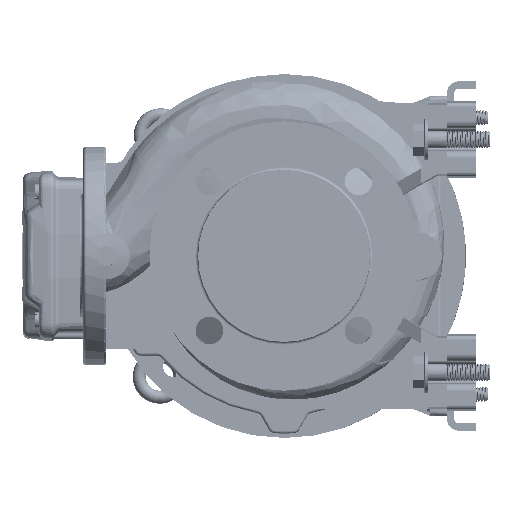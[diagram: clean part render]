
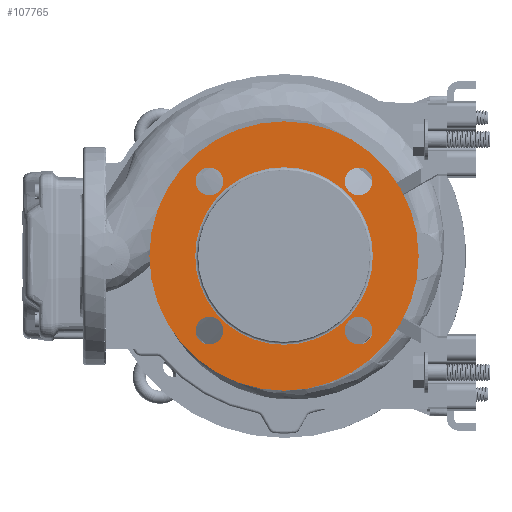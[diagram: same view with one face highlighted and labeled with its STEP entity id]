
A CAD part, left-side view. The second image highlights one B-rep face of the part: STEP entity #107765.
In plain terms, the highlighted planar face has unit normal (-1, 0, 0).
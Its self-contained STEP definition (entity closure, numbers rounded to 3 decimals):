
#3305 = DIRECTION ( 'NONE',  ( 0., 0., 1. ) ) ;
#6729 = AXIS2_PLACEMENT_3D ( 'NONE', #164980, #150472, #8525 ) ;
#6839 = ORIENTED_EDGE ( 'NONE', *, *, #36641, .F. ) ;
#8525 = DIRECTION ( 'NONE',  ( 0., -1., 0. ) ) ;
#11519 = FACE_BOUND ( 'NONE', #97416, .T. ) ;
#11932 = VERTEX_POINT ( 'NONE', #180497 ) ;
#12402 = AXIS2_PLACEMENT_3D ( 'NONE', #70905, #134114, #162102 ) ;
#14561 = FACE_BOUND ( 'NONE', #40629, .T. ) ;
#17313 = DIRECTION ( 'NONE',  ( 0., 0., -1. ) ) ;
#17777 = DIRECTION ( 'NONE',  ( 0., -1., 0. ) ) ;
#19034 = CIRCLE ( 'NONE', #12402, 9.5 ) ;
#20364 = DIRECTION ( 'NONE',  ( 0., -1., 0. ) ) ;
#21291 = EDGE_CURVE ( 'NONE', #92169, #11932, #23038, .T. ) ;
#21408 = AXIS2_PLACEMENT_3D ( 'NONE', #47360, #31867, #17313 ) ;
#23038 = CIRCLE ( 'NONE', #138838, 92.5 ) ;
#25604 = DIRECTION ( 'NONE',  ( 0., 1., 0. ) ) ;
#26039 = FACE_BOUND ( 'NONE', #201394, .T. ) ;
#27829 = VERTEX_POINT ( 'NONE', #192483 ) ;
#30213 = ORIENTED_EDGE ( 'NONE', *, *, #51106, .F. ) ;
#31327 = CIRCLE ( 'NONE', #21408, 9.5 ) ;
#31695 = DIRECTION ( 'NONE',  ( -1., 0., 0. ) ) ;
#31867 = DIRECTION ( 'NONE',  ( -1., 0., 0. ) ) ;
#35052 = CIRCLE ( 'NONE', #170631, 9.5 ) ;
#35438 = DIRECTION ( 'NONE',  ( -1., 0., 0. ) ) ;
#36641 = EDGE_CURVE ( 'NONE', #188730, #86997, #107810, .T. ) ;
#38660 = CARTESIAN_POINT ( 'NONE',  ( -71.025, 184.943, 181.525 ) ) ;
#40629 = EDGE_LOOP ( 'NONE', ( #30213, #184080 ) ) ;
#41539 = ORIENTED_EDGE ( 'NONE', *, *, #117335, .T. ) ;
#41605 = DIRECTION ( 'NONE',  ( 0., 1., 0. ) ) ;
#44713 = EDGE_LOOP ( 'NONE', ( #127242, #41539 ) ) ;
#45858 = VERTEX_POINT ( 'NONE', #153806 ) ;
#47360 = CARTESIAN_POINT ( 'NONE',  ( -71.025, 91.912, 284.056 ) ) ;
#47636 = DIRECTION ( 'NONE',  ( -1., 0., 0. ) ) ;
#47890 = ORIENTED_EDGE ( 'NONE', *, *, #143867, .F. ) ;
#48914 = CARTESIAN_POINT ( 'NONE',  ( -71.025, 50.677, 232.79 ) ) ;
#51106 = EDGE_CURVE ( 'NONE', #146854, #101461, #81767, .T. ) ;
#51302 = DIRECTION ( 'NONE',  ( 0., 0., -1. ) ) ;
#51826 = CARTESIAN_POINT ( 'NONE',  ( -71.025, 184.943, 284.056 ) ) ;
#52328 = DIRECTION ( 'NONE',  ( -1., 0., 0. ) ) ;
#61199 = FACE_OUTER_BOUND ( 'NONE', #44713, .T. ) ;
#61530 = CARTESIAN_POINT ( 'NONE',  ( -71.025, 143.177, 232.79 ) ) ;
#67110 = VERTEX_POINT ( 'NONE', #172129 ) ;
#68060 = CARTESIAN_POINT ( 'NONE',  ( -71.025, 194.443, 284.056 ) ) ;
#68901 = DIRECTION ( 'NONE',  ( -1., 0., 0. ) ) ;
#69235 = CARTESIAN_POINT ( 'NONE',  ( -71.025, 203.943, 284.056 ) ) ;
#70905 = CARTESIAN_POINT ( 'NONE',  ( -71.025, 194.443, 181.525 ) ) ;
#71283 = CARTESIAN_POINT ( 'NONE',  ( -71.025, 203.943, 181.525 ) ) ;
#73102 = EDGE_CURVE ( 'NONE', #45858, #67110, #176703, .T. ) ;
#77001 = DIRECTION ( 'NONE',  ( 0., -1., 0. ) ) ;
#81767 = CIRCLE ( 'NONE', #118208, 9.5 ) ;
#86997 = VERTEX_POINT ( 'NONE', #141890 ) ;
#87377 = AXIS2_PLACEMENT_3D ( 'NONE', #121913, #167514, #25604 ) ;
#88960 = AXIS2_PLACEMENT_3D ( 'NONE', #138457, #31695, #186058 ) ;
#90505 = CARTESIAN_POINT ( 'NONE',  ( -71.025, 194.443, 284.056 ) ) ;
#91256 = DIRECTION ( 'NONE',  ( 1., 0., 0. ) ) ;
#91642 = AXIS2_PLACEMENT_3D ( 'NONE', #68060, #47636, #20364 ) ;
#92169 = VERTEX_POINT ( 'NONE', #48914 ) ;
#92781 = CIRCLE ( 'NONE', #6729, 61. ) ;
#96095 = EDGE_CURVE ( 'NONE', #101461, #146854, #98314, .T. ) ;
#96510 = AXIS2_PLACEMENT_3D ( 'NONE', #113146, #35438, #3305 ) ;
#96892 = CARTESIAN_POINT ( 'NONE',  ( -71.025, 91.912, 181.525 ) ) ;
#97416 = EDGE_LOOP ( 'NONE', ( #152007, #47890 ) ) ;
#97539 = CARTESIAN_POINT ( 'NONE',  ( -71.025, 143.177, 232.79 ) ) ;
#98314 = CIRCLE ( 'NONE', #91642, 9.5 ) ;
#100369 = EDGE_LOOP ( 'NONE', ( #191817, #164742 ) ) ;
#101461 = VERTEX_POINT ( 'NONE', #69235 ) ;
#103881 = VERTEX_POINT ( 'NONE', #170548 ) ;
#105686 = EDGE_CURVE ( 'NONE', #86997, #188730, #31327, .T. ) ;
#106077 = DIRECTION ( 'NONE',  ( -1., 0., 0. ) ) ;
#106821 = FACE_BOUND ( 'NONE', #169767, .T. ) ;
#107765 = ADVANCED_FACE ( 'NONE', ( #26039, #136884, #106821, #14561, #11519, #61199 ), #184525, .F. ) ;
#107810 = CIRCLE ( 'NONE', #127610, 9.5 ) ;
#113146 = CARTESIAN_POINT ( 'NONE',  ( -71.025, 194.443, 181.525 ) ) ;
#117335 = EDGE_CURVE ( 'NONE', #11932, #92169, #151830, .T. ) ;
#118208 = AXIS2_PLACEMENT_3D ( 'NONE', #90505, #106077, #77001 ) ;
#121486 = EDGE_CURVE ( 'NONE', #172165, #123698, #129489, .T. ) ;
#121913 = CARTESIAN_POINT ( 'NONE',  ( -71.025, 91.912, 181.525 ) ) ;
#121915 = EDGE_CURVE ( 'NONE', #27829, #103881, #92781, .T. ) ;
#123698 = VERTEX_POINT ( 'NONE', #71283 ) ;
#127242 = ORIENTED_EDGE ( 'NONE', *, *, #21291, .T. ) ;
#127610 = AXIS2_PLACEMENT_3D ( 'NONE', #168001, #68901, #51302 ) ;
#128889 = ORIENTED_EDGE ( 'NONE', *, *, #121486, .F. ) ;
#129489 = CIRCLE ( 'NONE', #96510, 9.5 ) ;
#134114 = DIRECTION ( 'NONE',  ( -1., 0., 0. ) ) ;
#136823 = ORIENTED_EDGE ( 'NONE', *, *, #166134, .F. ) ;
#136884 = FACE_BOUND ( 'NONE', #100369, .T. ) ;
#137218 = DIRECTION ( 'NONE',  ( 0., -1., 0. ) ) ;
#138457 = CARTESIAN_POINT ( 'NONE',  ( -71.025, 143.177, 232.79 ) ) ;
#138838 = AXIS2_PLACEMENT_3D ( 'NONE', #61530, #204425, #137218 ) ;
#140678 = AXIS2_PLACEMENT_3D ( 'NONE', #97539, #159699, #17777 ) ;
#141890 = CARTESIAN_POINT ( 'NONE',  ( -71.025, 101.412, 284.056 ) ) ;
#143867 = EDGE_CURVE ( 'NONE', #103881, #27829, #200272, .T. ) ;
#146854 = VERTEX_POINT ( 'NONE', #51826 ) ;
#149703 = ORIENTED_EDGE ( 'NONE', *, *, #105686, .F. ) ;
#150369 = AXIS2_PLACEMENT_3D ( 'NONE', #171019, #91256, #41605 ) ;
#150472 = DIRECTION ( 'NONE',  ( -1., 0., 0. ) ) ;
#151830 = CIRCLE ( 'NONE', #88960, 92.5 ) ;
#152007 = ORIENTED_EDGE ( 'NONE', *, *, #121915, .F. ) ;
#153806 = CARTESIAN_POINT ( 'NONE',  ( -71.025, 101.412, 181.525 ) ) ;
#154081 = CARTESIAN_POINT ( 'NONE',  ( -71.025, 82.412, 284.056 ) ) ;
#159699 = DIRECTION ( 'NONE',  ( -1., 0., 0. ) ) ;
#160086 = DIRECTION ( 'NONE',  ( 0., 1., 0. ) ) ;
#160887 = EDGE_CURVE ( 'NONE', #67110, #45858, #35052, .T. ) ;
#162102 = DIRECTION ( 'NONE',  ( 0., 0., 1. ) ) ;
#164742 = ORIENTED_EDGE ( 'NONE', *, *, #73102, .F. ) ;
#164980 = CARTESIAN_POINT ( 'NONE',  ( -71.025, 143.177, 232.79 ) ) ;
#166134 = EDGE_CURVE ( 'NONE', #123698, #172165, #19034, .T. ) ;
#167514 = DIRECTION ( 'NONE',  ( -1., 0., 0. ) ) ;
#168001 = CARTESIAN_POINT ( 'NONE',  ( -71.025, 91.912, 284.056 ) ) ;
#169767 = EDGE_LOOP ( 'NONE', ( #128889, #136823 ) ) ;
#170548 = CARTESIAN_POINT ( 'NONE',  ( -71.025, 204.177, 232.79 ) ) ;
#170631 = AXIS2_PLACEMENT_3D ( 'NONE', #96892, #52328, #160086 ) ;
#171019 = CARTESIAN_POINT ( 'NONE',  ( -71.025, 204.177, 232.79 ) ) ;
#172129 = CARTESIAN_POINT ( 'NONE',  ( -71.025, 82.412, 181.525 ) ) ;
#172165 = VERTEX_POINT ( 'NONE', #38660 ) ;
#176703 = CIRCLE ( 'NONE', #87377, 9.5 ) ;
#180497 = CARTESIAN_POINT ( 'NONE',  ( -71.025, 235.677, 232.79 ) ) ;
#184080 = ORIENTED_EDGE ( 'NONE', *, *, #96095, .F. ) ;
#184525 = PLANE ( 'NONE',  #150369 ) ;
#186058 = DIRECTION ( 'NONE',  ( 0., -1., 0. ) ) ;
#188730 = VERTEX_POINT ( 'NONE', #154081 ) ;
#191817 = ORIENTED_EDGE ( 'NONE', *, *, #160887, .F. ) ;
#192483 = CARTESIAN_POINT ( 'NONE',  ( -71.025, 82.177, 232.79 ) ) ;
#200272 = CIRCLE ( 'NONE', #140678, 61. ) ;
#201394 = EDGE_LOOP ( 'NONE', ( #6839, #149703 ) ) ;
#204425 = DIRECTION ( 'NONE',  ( -1., 0., 0. ) ) ;
